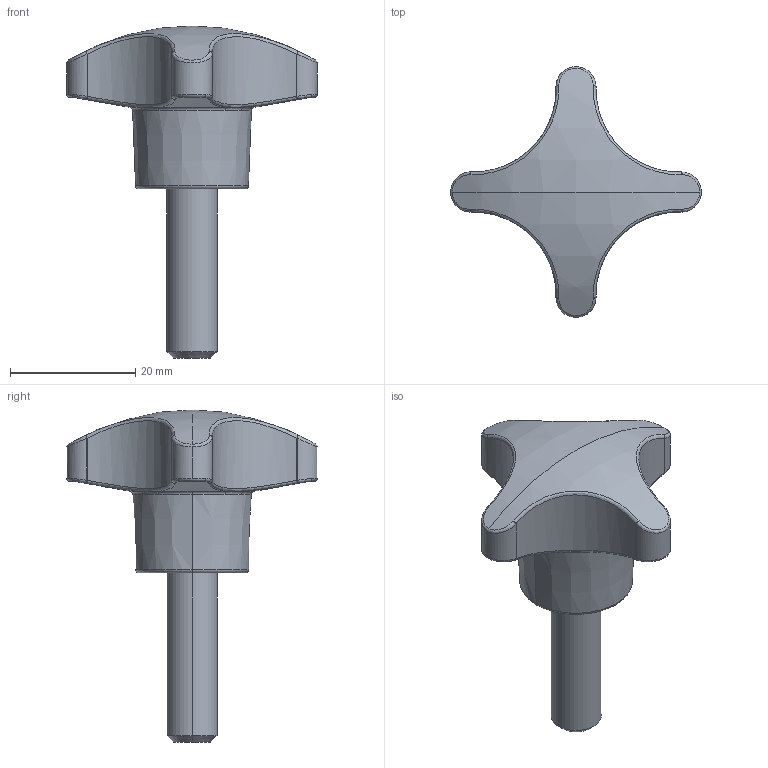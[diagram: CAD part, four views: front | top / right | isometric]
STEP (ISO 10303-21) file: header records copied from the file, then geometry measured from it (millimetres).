
FILE_DESCRIPTION (( 'STEP AP214' ), '1' );
FILE_NAME ('1121 40 501.STEP', '2010-11-26T15:46:52', ( 'Marc' ), ( '' ), 'SwSTEP 2.0', 'SolidWorks 2010', '' );
FILE_SCHEMA (( 'AUTOMOTIVE_DESIGN' ));
Length unit declared in the file: millimetre
Products named in the file (1): 1121 40 501
Bounding box: 40 x 40 x 53 mm (x, y, z)
Volume: 12255.2 mm3; surface area: 4274.4 mm2
Topology: 2 solids, 2 shells, 81 faces, 193 edges, 118 vertices
Faces by surface type: bspline 24, cylinder 21, torus 16, cone 9, plane 9, sphere 2
Entity records: 7585 total; most frequent: CARTESIAN_POINT 5662, ORIENTED_EDGE 386, DIRECTION 310, EDGE_CURVE 193, AXIS2_PLACEMENT_3D 142, VERTEX_POINT 118, CIRCLE 84, EDGE_LOOP 83
